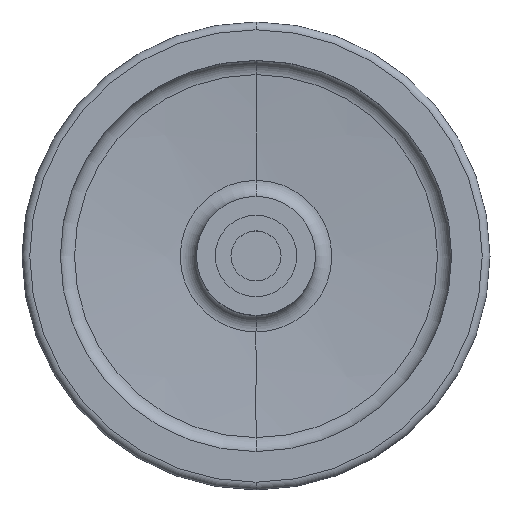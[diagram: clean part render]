
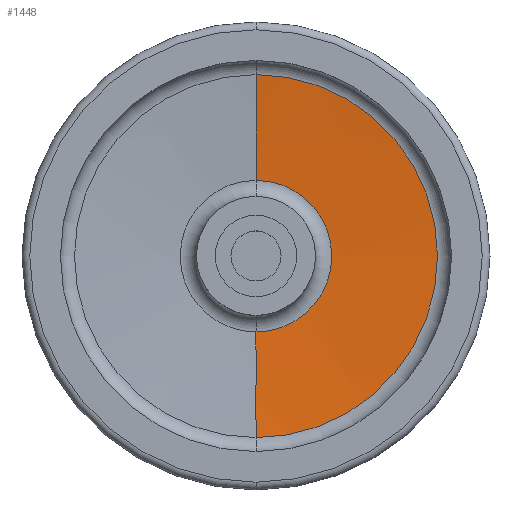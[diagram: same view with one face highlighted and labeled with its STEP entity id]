
A CAD part, top view. The second image highlights one B-rep face of the part: STEP entity #1448.
In plain terms, the highlighted spherical face has radius 595 mm.
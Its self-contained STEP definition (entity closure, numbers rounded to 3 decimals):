
#10 = ORIENTED_EDGE ( 'NONE', *, *, #1198, .F. ) ;
#150 = CARTESIAN_POINT ( 'NONE',  ( 0., 0., 555.759 ) ) ;
#151 = VERTEX_POINT ( 'NONE', #538 ) ;
#187 = CIRCLE ( 'NONE', #748, 57.987 ) ;
#199 = EDGE_CURVE ( 'NONE', #552, #253, #187, .T. ) ;
#253 = VERTEX_POINT ( 'NONE', #644 ) ;
#345 = CIRCLE ( 'NONE', #1338, 595. ) ;
#351 = EDGE_LOOP ( 'NONE', ( #1091, #1172, #591, #10 ) ) ;
#354 = DIRECTION ( 'NONE',  ( 0., -1., 0. ) ) ;
#356 = CARTESIAN_POINT ( 'NONE',  ( 0., -24.203, -38.748 ) ) ;
#422 = VERTEX_POINT ( 'NONE', #356 ) ;
#432 = CARTESIAN_POINT ( 'NONE',  ( 0., 0., -38.748 ) ) ;
#538 = CARTESIAN_POINT ( 'NONE',  ( 0., 24.203, -38.748 ) ) ;
#552 = VERTEX_POINT ( 'NONE', #1189 ) ;
#575 = DIRECTION ( 'NONE',  ( -1., 0., 0. ) ) ;
#591 = ORIENTED_EDGE ( 'NONE', *, *, #199, .T. ) ;
#628 = DIRECTION ( 'NONE',  ( 0., -1., 0. ) ) ;
#634 = CIRCLE ( 'NONE', #1090, 595. ) ;
#644 = CARTESIAN_POINT ( 'NONE',  ( 0., 57.987, -36.408 ) ) ;
#662 = CARTESIAN_POINT ( 'NONE',  ( 0., 0., 555.759 ) ) ;
#666 = SPHERICAL_SURFACE ( 'NONE', #1264, 595. ) ;
#748 = AXIS2_PLACEMENT_3D ( 'NONE', #1455, #764, #628 ) ;
#764 = DIRECTION ( 'NONE',  ( 0., 0., 1. ) ) ;
#789 = DIRECTION ( 'NONE',  ( 1., 0., 0. ) ) ;
#799 = AXIS2_PLACEMENT_3D ( 'NONE', #432, #1227, #890 ) ;
#890 = DIRECTION ( 'NONE',  ( 0., -1., 0. ) ) ;
#893 = DIRECTION ( 'NONE',  ( 0., 0., -1. ) ) ;
#1090 = AXIS2_PLACEMENT_3D ( 'NONE', #662, #789, #893 ) ;
#1091 = ORIENTED_EDGE ( 'NONE', *, *, #1475, .F. ) ;
#1094 = CIRCLE ( 'NONE', #799, 24.203 ) ;
#1172 = ORIENTED_EDGE ( 'NONE', *, *, #1292, .T. ) ;
#1189 = CARTESIAN_POINT ( 'NONE',  ( 0., -57.987, -36.408 ) ) ;
#1198 = EDGE_CURVE ( 'NONE', #151, #253, #634, .T. ) ;
#1227 = DIRECTION ( 'NONE',  ( 0., 0., 1. ) ) ;
#1243 = FACE_OUTER_BOUND ( 'NONE', #351, .T. ) ;
#1249 = CARTESIAN_POINT ( 'NONE',  ( 0., 0., 555.759 ) ) ;
#1264 = AXIS2_PLACEMENT_3D ( 'NONE', #1249, #1484, #1369 ) ;
#1292 = EDGE_CURVE ( 'NONE', #422, #552, #345, .T. ) ;
#1338 = AXIS2_PLACEMENT_3D ( 'NONE', #150, #575, #354 ) ;
#1369 = DIRECTION ( 'NONE',  ( 0., 1., 0. ) ) ;
#1448 = ADVANCED_FACE ( 'NONE', ( #1243 ), #666, .F. ) ;
#1455 = CARTESIAN_POINT ( 'NONE',  ( 0., 0., -36.408 ) ) ;
#1475 = EDGE_CURVE ( 'NONE', #422, #151, #1094, .T. ) ;
#1484 = DIRECTION ( 'NONE',  ( -1., 0., 0. ) ) ;
